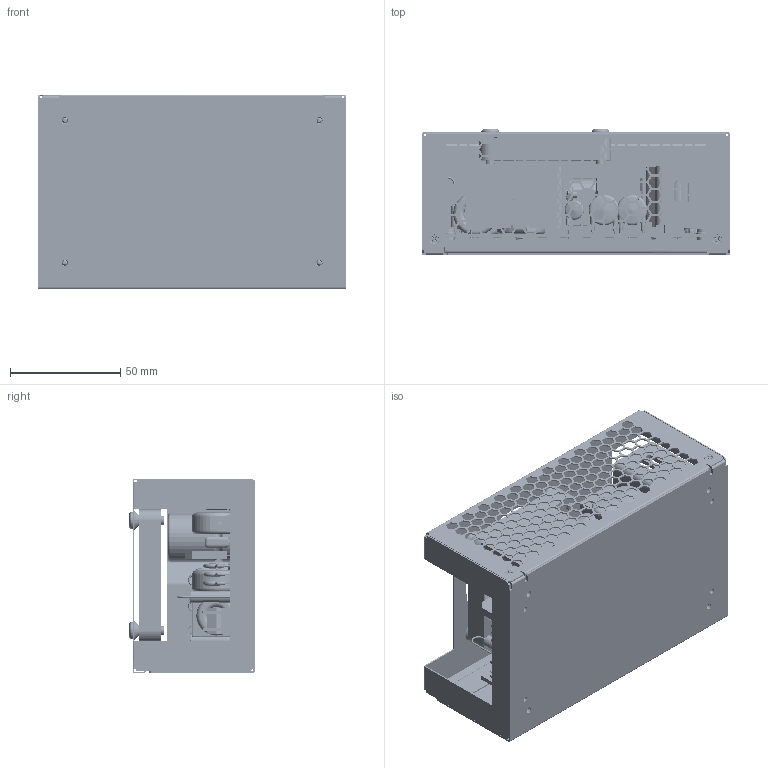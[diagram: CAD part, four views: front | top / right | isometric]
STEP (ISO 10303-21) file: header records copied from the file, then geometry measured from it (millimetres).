
FILE_DESCRIPTION (( 'STEP AP214' ), '1' );
FILE_NAME ('GCS150PSXX WITH TOP FAN STEP.STEP', '2013-07-11T20:40:28', ( '' ), ( '' ), 'SwSTEP 2.0', 'SolidWorks 2012', '' );
FILE_SCHEMA (( 'AUTOMOTIVE_DESIGN' ));
Length unit declared in the file: inch
Products named in the file (47): SCREW-M2.5; COVER-TF-10014366; SNAP-RIVET-SR4-14; Fan 60mm x 10mm_FAN 60X10MM; 1001436601; GCS150 SINGLE OUTPUT; Therm_.350 D X .250 LS; Capacitor Disc_0.550 D_0.400" C; Faston .25 X .032; Conn_MLX_KK100_Hdr_02P; Capacitor Disc_0.300 D_0.250" C; Pot_Top adj_Type1_01; Conn_JST_S10B-PHDSS-B_Vertical; Capacitor Elec_08mm D_13mm H; Capacitor Elec_10mm D_25mm; FHP_100dg_6-32x.250lg; Nut_hex_6-32_RP_KEPS; Screw_Sq Cone_no 4_01_.250"; 10013216 01; Xxmr_1050x1150x1000_12p; Xfmr_GCS150; TO220_3P_01; Nut_Keps_4-40_Star_01; Screw_Flat Head Phillips (Metric)_(1314)_M3 x 8; 10013215 01; Capacitor Elec_22mm D_30mm H; Capacitor Elec_06.3mm D_13mm H; Capacitor Elec_8mm D_20mm; RES-3W; TO92_01; Capacitor Film_18x11mm_15 LS_19mm H; Inductor Toroid_18.0mm OD_7mm Width; Inductor Toroid_20.0mm OD_10mm Width; CAP FILM_17x5x11MM_15LS; Bridge Rectifier_GBU6K_Lead trimed; Capacitor Disc_0.300 D X .40 LS; FUSE-0; CON MLX  .156 06P; CON MLX  .156 3P; 10012490A0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
Assembly tree (92 placements, depth 3):
  GCS150PSXX WITH TOP FAN STEP
    BASE-COM
      BASE-COM
      S-M3-0-ZI  x6
      S0-3.5M3-7-ZI  x4
      SMPS-M2.5  x2
    INSULATOR 10006903
    GCS150 SINGLE OUTPUT
      10012490A0
      CON MLX  .156 3P
      CON MLX  .156 06P
      FUSE-0  x2
      Capacitor Disc_0.300 D X .40 LS  x3
      Bridge Rectifier_GBU6K_Lead trimed
      CAP FILM_17x5x11MM_15LS  x3
      Inductor Toroid_20.0mm OD_10mm Width  x2
      Inductor Toroid_18.0mm OD_7mm Width
      Capacitor Film_18x11mm_15 LS_19mm H
      TO92_01  x2
      RES-3W  x2
      Capacitor Elec_8mm D_20mm
      Capacitor Elec_06.3mm D_13mm H
      Capacitor Elec_22mm D_30mm H
      10013215 01
      Screw_Flat Head Phillips (Metric)_(1314)_M3 x 8  x3
      Nut_Keps_4-40_Star_01  x3
      TO220_3P_01  x5
      Xfmr_GCS150
      Xxmr_1050x1150x1000_12p
      10013216 01
      Screw_Sq Cone_no 4_01_.250"  x2
      Nut_hex_6-32_RP_KEPS  x2
      FHP_100dg_6-32x.250lg  x2
      Capacitor Elec_10mm D_25mm  x4
      Capacitor Elec_08mm D_13mm H  x2
      Conn_JST_S10B-PHDSS-B_Vertical
      Pot_Top adj_Type1_01
      Capacitor Disc_0.300 D_0.250" C  x2
      Conn_MLX_KK100_Hdr_02P
      Faston .25 X .032
      Capacitor Disc_0.550 D_0.400" C  x2
      Therm_.350 D X .250 LS
    Screw_Sq Cone_no 4_01_.250"  x4
    COVER-TF-10014366
      1001436601
      Fan 60mm x 10mm_FAN 60X10MM
      SNAP-RIVET-SR4-14  x4
      SMPS-M2.5  x2
    SCREW-M2.5  x4
Bounding box: 139.7 x 57.07 x 88.5 mm (x, y, z)
Volume: 157802.3 mm3; surface area: 199997.2 mm2
Topology: 114 solids, 131 shells, 5661 faces, 14059 edges, 8848 vertices
Faces by surface type: plane 3195, cylinder 1393, cone 624, torus 288, bspline 139, sphere 22
Entity records: 137666 total; most frequent: CARTESIAN_POINT 24023, DIRECTION 20401, ORIENTED_EDGE 20228, EDGE_CURVE 10114, VECTOR 7197, LINE 7197, AXIS2_PLACEMENT_3D 6602, VERTEX_POINT 6496
